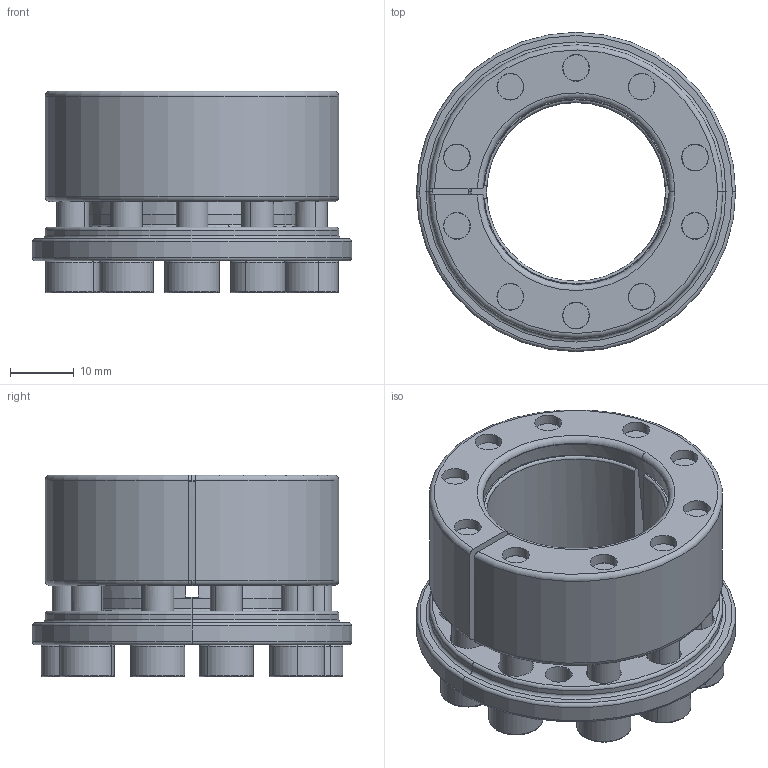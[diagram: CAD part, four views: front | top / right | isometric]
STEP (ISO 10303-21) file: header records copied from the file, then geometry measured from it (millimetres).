
FILE_DESCRIPTION (( 'STEP AP203' ), '1' );
FILE_NAME ('SAPL-A-28-46.STEP', '2013-07-22T08:50:21', ( 'MYCOM' ), ( '' ), 'SwSTEP 2.0', 'SolidWorks 2012', '' );
FILE_SCHEMA (( 'CONFIG_CONTROL_DESIGN' ));
Length unit declared in the file: millimetre
Products named in the file (1): SAPL-A-28-46
Bounding box: 50 x 50 x 31.6 mm (x, y, z)
Volume: 27503.8 mm3; surface area: 14807.6 mm2
Topology: 1 solids, 1 shells, 440 faces, 1090 edges, 651 vertices
Faces by surface type: plane 165, cylinder 118, torus 86, cone 71
Entity records: 13316 total; most frequent: CARTESIAN_POINT 2522, DIRECTION 2465, ORIENTED_EDGE 2140, EDGE_CURVE 1070, AXIS2_PLACEMENT_3D 1010, VERTEX_POINT 651, CIRCLE 569, EDGE_LOOP 491
